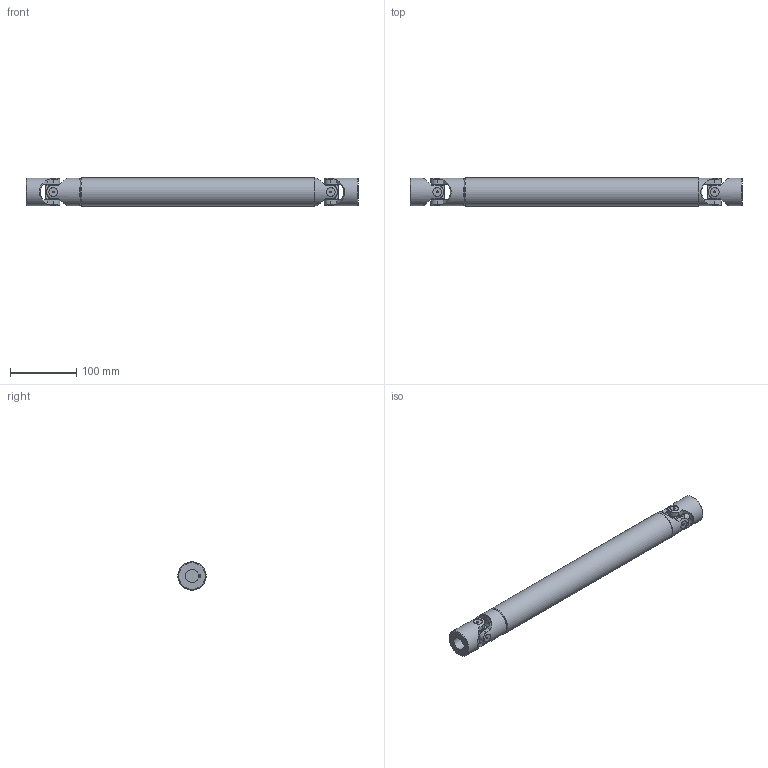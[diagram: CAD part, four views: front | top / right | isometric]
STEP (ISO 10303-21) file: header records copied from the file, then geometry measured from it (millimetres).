
FILE_DESCRIPTION(/* description */ (''),/* implementation_level */ '2;1');
FILE_NAME(/* name */ '\\SRV2016\Societa\Stefano\Disegni 3D\00Catalogo 3D\03Trasmissioni standard GA\3GA29\3GA29_SG0A2029.stp',/* time_stamp */ '2022-02-24T17:20:25+01:00',/* author */ ('acquisti'),/* organization */ (''),/* preprocessor_version */ 'ST-DEVELOPER v15.6',/* originating_system */ 'Autodesk Inventor 2015',/* authorisation */ '');
FILE_SCHEMA (('AUTOMOTIVE_DESIGN { 1 0 10303 214 3 1 1 }'));
Length unit declared in the file: millimetre
Products named in the file (5): 3GA29 LAI; 3GA29 LCI; 3G SFE; 3G MOC; 3GA29_SG0A2029
Assembly tree (6 placements, depth 2):
  3GA29_SG0A2029
    3GA29 LAI
    3GA29 LCI
    3G SFE  x2
    3G MOC  x2
Bounding box: 500 x 42.5 x 42.5 mm (x, y, z)
Volume: 474038 mm3; surface area: 155657.6 mm2
Topology: 6 solids, 6 shells, 228 faces, 561 edges, 369 vertices
Faces by surface type: plane 106, cylinder 93, cone 25, torus 4
Full cylindrical faces by diameter (mm): 3 x8, 18 x8, 20 x1, 22 x2, 35 x1, 42 x4, 42.5 x1
Entity records: 5785 total; most frequent: CARTESIAN_POINT 1675, DIRECTION 823, ORIENTED_EDGE 820, EDGE_CURVE 410, AXIS2_PLACEMENT_3D 335, VERTEX_POINT 286, EDGE_LOOP 224, FACE_OUTER_BOUND 176
